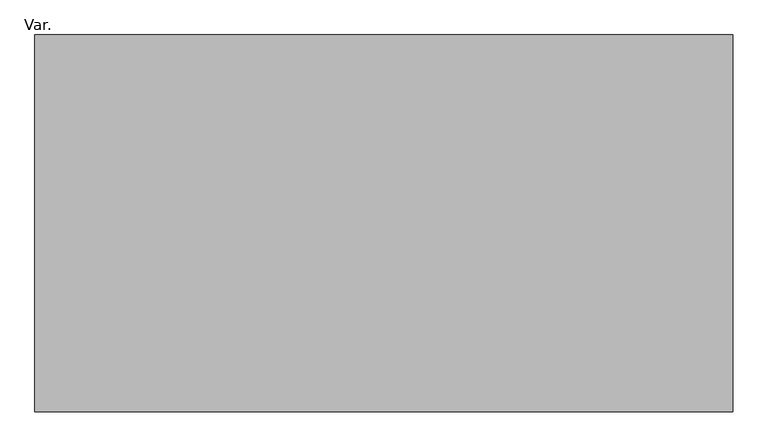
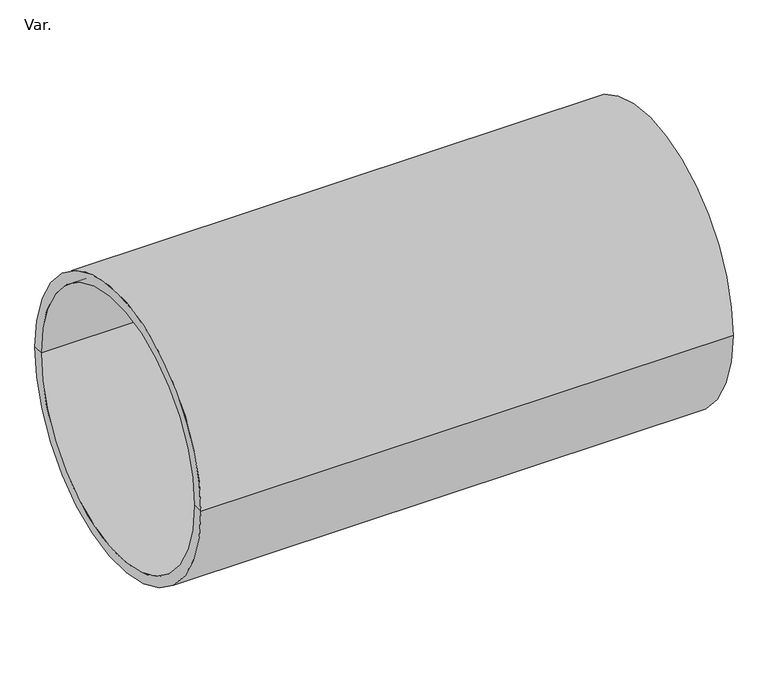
"""IFC4 building model written with IfcOpenShell, lengths in millimetres: pipe fitting geometry, PlastigamaWavin_Unionesdetubería_NovafortZNoUsarElevador : Var.."""

from ifc_helpers import new_model, si_unit, frame, origin, place, context, project, spatial, polyline, circle_curve, source, transform, mapped, element, save
from ifc_brep_helpers import plane_surface, cylinder_surface, revolved_surface, advanced_brep


def var_4e56a27c(model_context):
    return source(origin(), model_context, "Body", "AdvancedBrep", [
        advanced_brep(
        [(-69.2453589, -270.0, 0.0), (-69.2453589, 270.0, 0.0), (930.7546411, 270.0, 0.0), (930.7546411, -270.0, 0.0), (-69.2453589, -250.0, 0.0), (-69.2453589, 250.0, 0.0), (930.7546411, -250.0, 0.0), (930.7546411, 250.0, 0.0)],
        [
            (0, 1, circle_curve(frame((-69.2453589, 0.0, 0.0), z_axis=(1.0, 0.0, 0.0), x_axis=(0.0, 1.0, 0.0)), 270.0)),
            (1, 2),
            (2, 3, circle_curve(frame((930.7546411, 0.0, 0.0), z_axis=(-1.0, 0.0, 0.0), x_axis=(0.0, 1.0, 0.0)), 270.0)),
            (3, 0),
            (1, 0, circle_curve(frame((-69.2453589, 0.0, 0.0), z_axis=(1.0, 0.0, 0.0), x_axis=(0.0, 1.0, 0.0)), 270.0)),
            (3, 2, circle_curve(frame((930.7546411, 0.0, 0.0), z_axis=(-1.0, 0.0, 0.0), x_axis=(0.0, 1.0, 0.0)), 270.0)),
            (4, 5, circle_curve(frame((-69.2453589, 0.0, 0.0), z_axis=(1.0, 0.0, 0.0), x_axis=(0.0, 1.0, 0.0)), 250.0)),
            (5, 1),
            (0, 4),
            (5, 4, circle_curve(frame((-69.2453589, 0.0, 0.0), z_axis=(1.0, 0.0, 0.0), x_axis=(0.0, 1.0, 0.0)), 250.0)),
            (6, 7, circle_curve(frame((930.7546411, 0.0, 0.0), z_axis=(1.0, 0.0, 0.0), x_axis=(0.0, 1.0, 0.0)), 250.0)),
            (7, 5),
            (4, 6),
            (7, 6, circle_curve(frame((930.7546411, 0.0, 0.0), z_axis=(1.0, 0.0, 0.0), x_axis=(0.0, 1.0, 0.0)), 250.0)),
            (2, 7),
            (6, 3),
        ],
        [
            cylinder_surface(frame((-2070.4026442, 0.0, 0.0), z_axis=(-1.0, 0.0, 0.0), x_axis=(0.0, 1.0, 0.0)), 270.0),
            plane_surface(frame((-69.2453589, 0.0, 0.0), z_axis=(-1.0, 0.0, 0.0), x_axis=(0.0, 1.0, 0.0))),
            revolved_surface(polyline([(-69.24535889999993, 250.0, 0.0), (930.7546410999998, 250.0, 0.0)]), (-2070.4026442, 0.0, 0.0), (-1.0, 0.0, 0.0)),
            plane_surface(frame((930.7546411, 0.0, 0.0), z_axis=(1.0, 0.0, 0.0), x_axis=(0.0, 1.0, 0.0))),
        ],
        [
            (0, [[1, 2, 3, 4]]),
            (0, [[5, -4, 6, -2]]),
            (1, [[7, 8, -1, 9]]),
            (1, [[10, -9, -5, -8]]),
            (2, [[11, 12, -7, 13]]),
            (2, [[14, -13, -10, -12]]),
            (3, [[-3, 15, -11, 16]]),
            (3, [[-6, -16, -14, -15]]),
        ],
    ),
    ])


if __name__ == "__main__":
    model = new_model("IFC4")
    model_context = context("Model", 3, world=origin())
    ifc_project = project(units=[si_unit("LENGTHUNIT", "METRE", prefix="MILLI")], contexts=[model_context])
    site = spatial("IfcSite", under=ifc_project)
    building = spatial("IfcBuilding", under=site)
    placement = place(None, origin())
    var_shape = var_4e56a27c(model_context)
    element("IfcPipeFitting", 1, ObjectType="PlastigamaWavin_Unionesdetubería_NovafortZNoUsarElevador : Var.", at=placement, inside=building, context=model_context, shape_type="MappedRepresentation", body=[
        mapped(var_shape, transform((0.0, 0.0, 0.0), x_axis=(1.0, 0.0, 0.0), y_axis=(0.0, 1.0, 0.0), z_axis=(0.0, 0.0, 1.0))),
    ])
    save(model, "model.ifc")
